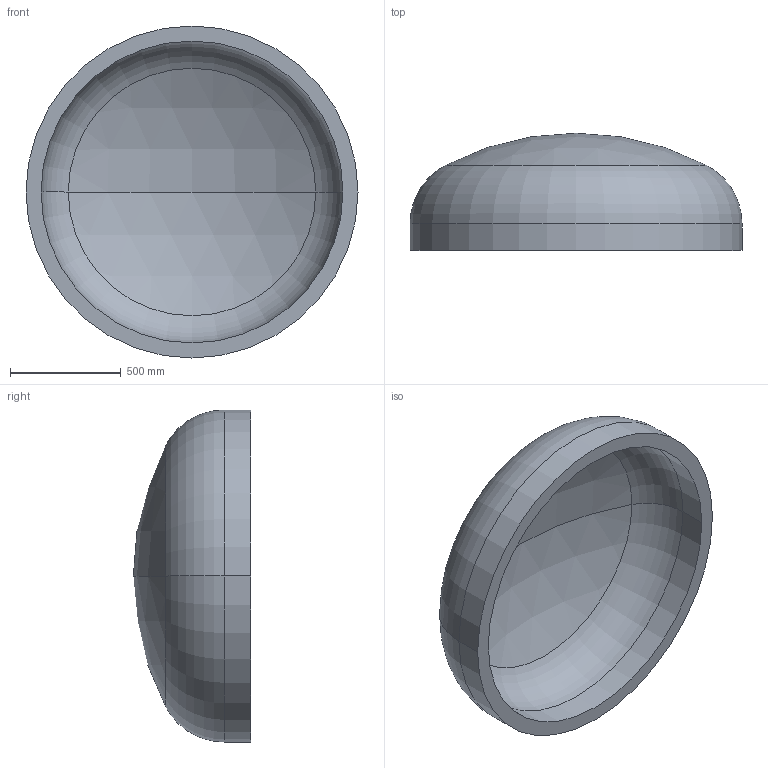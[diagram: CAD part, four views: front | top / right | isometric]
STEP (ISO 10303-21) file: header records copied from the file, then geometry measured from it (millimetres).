
FILE_DESCRIPTION (( 'STEP AP203' ), '1' );
FILE_NAME ('DIN 28013 Korbbogenform_-_Boden DIN 28013 - 1500 x 120 - I - s=68.step', '2016-07-01T10:52:19', ( '' ), ( '' ), 'SwSTEP 2.0', 'SolidWorks 2013', '' );
FILE_SCHEMA (( 'CONFIG_CONTROL_DESIGN' ));
Length unit declared in the file: millimetre
Products named in the file (1): DIN 28013 Korbbogenform_-_Boden DIN 28013 - 1500 x 120 - I - s=68
Bounding box: 1500 x 529.75 x 1500 mm (x, y, z)
Volume: 193545922 mm3; surface area: 6008125.9 mm2
Topology: 1 solids, 1 shells, 13 faces, 24 edges, 14 vertices
Faces by surface type: torus 4, cylinder 4, sphere 4, plane 1
Entity records: 407 total; most frequent: DIRECTION 72, CARTESIAN_POINT 52, ORIENTED_EDGE 48, AXIS2_PLACEMENT_3D 34, EDGE_CURVE 24, CIRCLE 20, EDGE_LOOP 14, VERTEX_POINT 14
